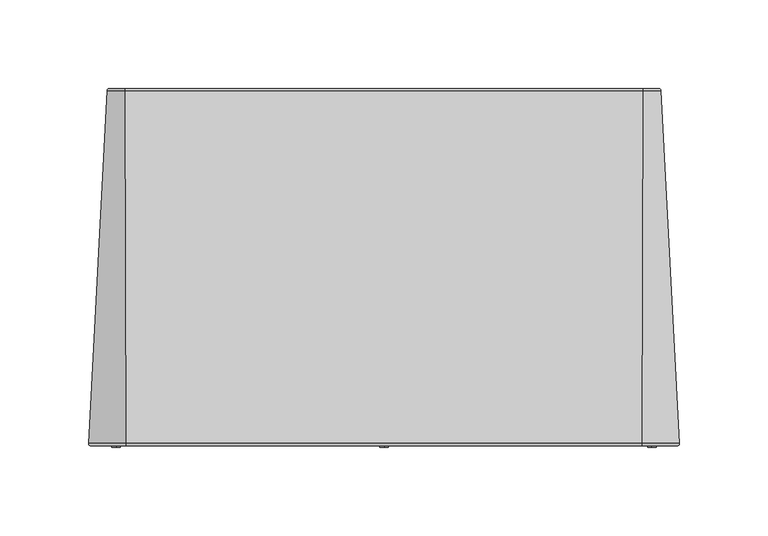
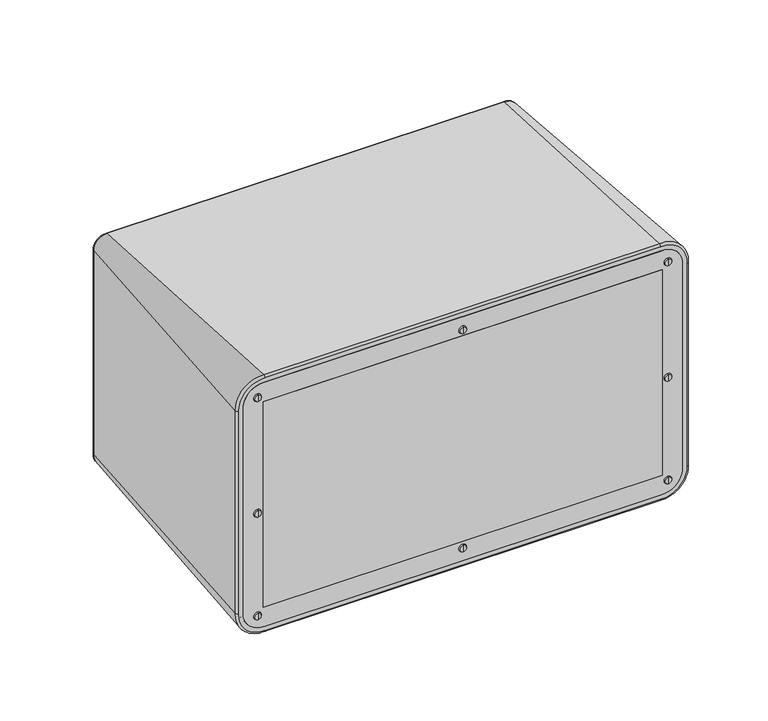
"""IFC4 building model written with IfcOpenShell, lengths in millimetres: proxy geometry, 230920 PS 8150T_B VA-(150W Leistung, Farbe schwarz) EN : PS 8150T/B VA (150W Leistung, Farbe schwarz)."""

from ifc_helpers import new_model, si_unit, point, frame, frame_2d, origin, place, context, project, spatial, polyline, circle_curve, ellipse_curve, trimmed, segment, composite_curve, outline, extrude, source, transform, mapped, element, save
from ifc_brep_helpers import plane_surface, revolved_surface, advanced_brep


def communication_devices_ccbabaca(model_context):
    return source(origin(), model_context, "Body", "SolidModel", [
        extrude(outline(composite_curve([segment(trimmed(circle_curve(frame_2d((176.0590026, -147.00169)), 4.3326509), [point((180.3853125, -146.7673691))], [point((175.8208415, -151.3277902))], False, "CARTESIAN"), True, "CONTINUOUS"), segment(trimmed(circle_curve(frame_2d((96.0, -1601.2409641)), 1452.1086662), [point((175.8208415, -151.3277902))], [point((16.1791585, -151.3277902))], True, "CARTESIAN"), True, "CONTINUOUS"), segment(trimmed(circle_curve(frame_2d((15.9409974, -147.00169)), 4.3326509), [point((16.1791585, -151.3277902))], [point((11.6146875, -146.7673691))], False, "CARTESIAN"), True, "CONTINUOUS"), segment(trimmed(circle_curve(frame_2d((-2698.1787776, 0.0)), 2713.765149), [point((11.6146875, -146.7673691))], [point((11.6146875, 146.7673691))], True, "CARTESIAN"), True, "CONTINUOUS"), segment(trimmed(circle_curve(frame_2d((15.9409974, 147.00169)), 4.3326509), [point((11.6146875, 146.7673691))], [point((16.1791585, 151.3277902))], False, "CARTESIAN"), True, "CONTINUOUS"), segment(trimmed(circle_curve(frame_2d((96.0, 1601.2409641)), 1452.1086662), [point((16.1791585, 151.3277902))], [point((175.8208415, 151.3277902))], True, "CARTESIAN"), True, "CONTINUOUS"), segment(trimmed(circle_curve(frame_2d((176.0590026, 147.00169)), 4.3326509), [point((175.8208415, 151.3277902))], [point((180.3853125, 146.7673691))], False, "CARTESIAN"), True, "CONTINUOUS"), segment(trimmed(circle_curve(frame_2d((2890.1787776, 0.0)), 2713.765149), [point((180.3853125, 146.7673691))], [point((180.3853125, -146.7673691))], True, "CARTESIAN"), True, "CONTINUOUS")], self_intersect=False)), frame((0.0, 94.2931712, 0.0), z_axis=(0.0, 1.0, 0.0), x_axis=(0.0, 0.0, 1.0)), (0.0, 0.0, 1.0), 6.7068288),
        advanced_brep(
        [(151.25, -100.749163, 90.7502974), (151.25, -100.749163, 93.6213488), (151.25, -100.749163, 87.8792459), (151.25, -101.6730619, 88.3667748), (151.25, -101.6730619, 93.13382), (151.25, -101.6730619, 90.7502974)],
        [
            (0, 1),
            (1, 2, circle_curve(frame((151.25, -100.749163, 90.7502974), z_axis=(0.0, 1.0, 0.0), x_axis=(0.0, 0.0, 1.0)), 2.8710515)),
            (2, 0),
            (2, 1, circle_curve(frame((151.25, -100.749163, 90.7502974), z_axis=(0.0, 1.0, 0.0), x_axis=(0.0, 0.0, 1.0)), 2.8710515)),
            (3, 4, circle_curve(frame((151.25, -101.6730619, 90.7502974), z_axis=(0.0, -1.0, 0.0), x_axis=(0.0, 0.0, 1.0)), 2.3835226)),
            (4, 5),
            (5, 3),
            (4, 3, circle_curve(frame((151.25, -101.6730619, 90.7502974), z_axis=(0.0, -1.0, 0.0), x_axis=(0.0, 0.0, 1.0)), 2.3835226)),
            (1, 4),
            (3, 2),
        ],
        [
            plane_surface(frame((151.25, -100.749163, 90.7502974), z_axis=(0.0, 1.0, 0.0), x_axis=(0.0, 0.0, 1.0))),
            plane_surface(frame((151.25, -101.6730619, 90.7502974), z_axis=(0.0, -1.0, 0.0), x_axis=(0.0, 0.0, 1.0))),
            revolved_surface(polyline([(151.25, -101.6730619, 93.13382), (151.25, -100.749163, 93.6213488)]), (151.25, -100.9174875, 90.7502974), (0.0, 1.0, 0.0)),
        ],
        [
            (0, [[1, 2, 3]]),
            (0, [[-3, 4, -1]]),
            (1, [[5, 6, 7]]),
            (1, [[8, -7, -6]]),
            (2, [[-2, 9, -5, 10]]),
            (2, [[-4, -10, -8, -9]]),
        ],
    ),
        advanced_brep(
        [(-151.25, -100.749163, 87.8792459), (-151.25, -100.749163, 93.6213488), (-151.25, -100.749163, 90.7502974), (-151.25, -101.6730619, 90.7502974), (-151.25, -101.6730619, 93.13382), (-151.25, -101.6730619, 88.3667748)],
        [
            (0, 1, circle_curve(frame((-151.25, -100.749163, 90.7502974), z_axis=(0.0, 1.0, 0.0), x_axis=(0.0, 0.0, 1.0)), 2.8710515)),
            (1, 2),
            (2, 0),
            (1, 0, circle_curve(frame((-151.25, -100.749163, 90.7502974), z_axis=(0.0, 1.0, 0.0), x_axis=(0.0, 0.0, 1.0)), 2.8710515)),
            (3, 4),
            (4, 5, circle_curve(frame((-151.25, -101.6730619, 90.7502974), z_axis=(0.0, -1.0, 0.0), x_axis=(0.0, 0.0, 1.0)), 2.3835226)),
            (5, 3),
            (5, 4, circle_curve(frame((-151.25, -101.6730619, 90.7502974), z_axis=(0.0, -1.0, 0.0), x_axis=(0.0, 0.0, 1.0)), 2.3835226)),
            (4, 1),
            (0, 5),
        ],
        [
            plane_surface(frame((-151.25, -100.749163, 90.7502974), z_axis=(0.0, 1.0, 0.0), x_axis=(0.0, 0.0, 1.0))),
            plane_surface(frame((-151.25, -101.6730619, 90.7502974), z_axis=(0.0, -1.0, 0.0), x_axis=(0.0, 0.0, 1.0))),
            revolved_surface(polyline([(-151.25, -100.749163, 93.6213488), (-151.25, -101.6730619, 93.13382)]), (-151.25, -100.9174875, 90.7502974), (0.0, -1.0, 0.0)),
        ],
        [
            (0, [[1, 2, 3]]),
            (0, [[4, -3, -2]]),
            (1, [[5, 6, 7]]),
            (1, [[-7, 8, -5]]),
            (2, [[-6, 9, -1, 10]]),
            (2, [[-8, -10, -4, -9]]),
        ],
    ),
        advanced_brep(
        [(151.25, -100.749163, 10.7502974), (151.25, -100.749163, 13.6213488), (151.25, -100.749163, 7.8792459), (151.25, -101.6730619, 8.3667748), (151.25, -101.6730619, 13.13382), (151.25, -101.6730619, 10.7502974)],
        [
            (0, 1),
            (1, 2, circle_curve(frame((151.25, -100.749163, 10.7502974), z_axis=(0.0, 1.0, 0.0), x_axis=(0.0, 0.0, 1.0)), 2.8710515)),
            (2, 0),
            (2, 1, circle_curve(frame((151.25, -100.749163, 10.7502974), z_axis=(0.0, 1.0, 0.0), x_axis=(0.0, 0.0, 1.0)), 2.8710515)),
            (3, 4, circle_curve(frame((151.25, -101.6730619, 10.7502974), z_axis=(0.0, -1.0, 0.0), x_axis=(0.0, 0.0, 1.0)), 2.3835226)),
            (4, 5),
            (5, 3),
            (4, 3, circle_curve(frame((151.25, -101.6730619, 10.7502974), z_axis=(0.0, -1.0, 0.0), x_axis=(0.0, 0.0, 1.0)), 2.3835226)),
            (1, 4),
            (3, 2),
        ],
        [
            plane_surface(frame((151.25, -100.749163, 10.7502974), z_axis=(0.0, 1.0, 0.0), x_axis=(0.0, 0.0, 1.0))),
            plane_surface(frame((151.25, -101.6730619, 10.7502974), z_axis=(0.0, -1.0, 0.0), x_axis=(0.0, 0.0, 1.0))),
            revolved_surface(polyline([(151.25, -101.6730619, 13.13382), (151.25, -100.749163, 13.6213488)]), (151.25, -100.9174875, 10.7502974), (0.0, 1.0, 0.0)),
        ],
        [
            (0, [[1, 2, 3]]),
            (0, [[-3, 4, -1]]),
            (1, [[5, 6, 7]]),
            (1, [[8, -7, -6]]),
            (2, [[-2, 9, -5, 10]]),
            (2, [[-4, -10, -8, -9]]),
        ],
    ),
        advanced_brep(
        [(-151.25, -100.749163, 7.8792459), (-151.25, -100.749163, 13.6213488), (-151.25, -100.749163, 10.7502974), (-151.25, -101.6730619, 10.7502974), (-151.25, -101.6730619, 13.13382), (-151.25, -101.6730619, 8.3667748)],
        [
            (0, 1, circle_curve(frame((-151.25, -100.749163, 10.7502974), z_axis=(0.0, 1.0, 0.0), x_axis=(0.0, 0.0, 1.0)), 2.8710515)),
            (1, 2),
            (2, 0),
            (1, 0, circle_curve(frame((-151.25, -100.749163, 10.7502974), z_axis=(0.0, 1.0, 0.0), x_axis=(0.0, 0.0, 1.0)), 2.8710515)),
            (3, 4),
            (4, 5, circle_curve(frame((-151.25, -101.6730619, 10.7502974), z_axis=(0.0, -1.0, 0.0), x_axis=(0.0, 0.0, 1.0)), 2.3835226)),
            (5, 3),
            (5, 4, circle_curve(frame((-151.25, -101.6730619, 10.7502974), z_axis=(0.0, -1.0, 0.0), x_axis=(0.0, 0.0, 1.0)), 2.3835226)),
            (4, 1),
            (0, 5),
        ],
        [
            plane_surface(frame((-151.25, -100.749163, 10.7502974), z_axis=(0.0, 1.0, 0.0), x_axis=(0.0, 0.0, 1.0))),
            plane_surface(frame((-151.25, -101.6730619, 10.7502974), z_axis=(0.0, -1.0, 0.0), x_axis=(0.0, 0.0, 1.0))),
            revolved_surface(polyline([(-151.25, -100.749163, 13.6213488), (-151.25, -101.6730619, 13.13382)]), (-151.25, -100.9174875, 10.7502974), (0.0, -1.0, 0.0)),
        ],
        [
            (0, [[1, 2, 3]]),
            (0, [[4, -3, -2]]),
            (1, [[5, 6, 7]]),
            (1, [[-7, 8, -5]]),
            (2, [[-6, 9, -1, 10]]),
            (2, [[-8, -10, -4, -9]]),
        ],
    ),
        advanced_brep(
        [(0.0, -100.749163, 7.8792459), (0.0, -100.749163, 13.6213488), (0.0, -100.749163, 10.7502974), (0.0, -101.6730619, 10.7502974), (0.0, -101.6730619, 13.13382), (0.0, -101.6730619, 8.3667748)],
        [
            (0, 1, circle_curve(frame((0.0, -100.749163, 10.7502974), z_axis=(0.0, 1.0, 0.0), x_axis=(0.0, 0.0, 1.0)), 2.8710515)),
            (1, 2),
            (2, 0),
            (1, 0, circle_curve(frame((0.0, -100.749163, 10.7502974), z_axis=(0.0, 1.0, 0.0), x_axis=(0.0, 0.0, 1.0)), 2.8710515)),
            (3, 4),
            (4, 5, circle_curve(frame((0.0, -101.6730619, 10.7502974), z_axis=(0.0, -1.0, 0.0), x_axis=(0.0, 0.0, 1.0)), 2.3835226)),
            (5, 3),
            (5, 4, circle_curve(frame((0.0, -101.6730619, 10.7502974), z_axis=(0.0, -1.0, 0.0), x_axis=(0.0, 0.0, 1.0)), 2.3835226)),
            (4, 1),
            (0, 5),
        ],
        [
            plane_surface(frame((0.0, -100.749163, 10.7502974), z_axis=(0.0, 1.0, 0.0), x_axis=(0.0, 0.0, 1.0))),
            plane_surface(frame((0.0, -101.6730619, 10.7502974), z_axis=(0.0, -1.0, 0.0), x_axis=(0.0, 0.0, 1.0))),
            revolved_surface(polyline([(0.0, -100.749163, 13.6213488), (0.0, -101.6730619, 13.13382)]), (0.0, -100.9174875, 10.7502974), (0.0, -1.0, 0.0)),
        ],
        [
            (0, [[1, 2, 3]]),
            (0, [[4, -3, -2]]),
            (1, [[5, 6, 7]]),
            (1, [[-7, 8, -5]]),
            (2, [[-6, 9, -1, 10]]),
            (2, [[-8, -10, -4, -9]]),
        ],
    ),
        advanced_brep(
        [(151.25, -100.749163, 180.7502974), (151.25, -100.749163, 183.6213488), (151.25, -100.749163, 177.8792459), (151.25, -101.6730619, 178.3667748), (151.25, -101.6730619, 183.13382), (151.25, -101.6730619, 180.7502974)],
        [
            (0, 1),
            (1, 2, circle_curve(frame((151.25, -100.749163, 180.7502974), z_axis=(0.0, 1.0, 0.0), x_axis=(0.0, 0.0, 1.0)), 2.8710515)),
            (2, 0),
            (2, 1, circle_curve(frame((151.25, -100.749163, 180.7502974), z_axis=(0.0, 1.0, 0.0), x_axis=(0.0, 0.0, 1.0)), 2.8710515)),
            (3, 4, circle_curve(frame((151.25, -101.6730619, 180.7502974), z_axis=(0.0, -1.0, 0.0), x_axis=(0.0, 0.0, 1.0)), 2.3835226)),
            (4, 5),
            (5, 3),
            (4, 3, circle_curve(frame((151.25, -101.6730619, 180.7502974), z_axis=(0.0, -1.0, 0.0), x_axis=(0.0, 0.0, 1.0)), 2.3835226)),
            (1, 4),
            (3, 2),
        ],
        [
            plane_surface(frame((151.25, -100.749163, 180.7502974), z_axis=(0.0, 1.0, 0.0), x_axis=(0.0, 0.0, 1.0))),
            plane_surface(frame((151.25, -101.6730619, 180.7502974), z_axis=(0.0, -1.0, 0.0), x_axis=(0.0, 0.0, 1.0))),
            revolved_surface(polyline([(151.25, -101.6730619, 183.13382), (151.25, -100.749163, 183.6213488)]), (151.25, -100.9174875, 180.7502974), (0.0, 1.0, 0.0)),
        ],
        [
            (0, [[1, 2, 3]]),
            (0, [[-3, 4, -1]]),
            (1, [[5, 6, 7]]),
            (1, [[8, -7, -6]]),
            (2, [[-2, 9, -5, 10]]),
            (2, [[-4, -10, -8, -9]]),
        ],
    ),
        advanced_brep(
        [(-151.25, -100.749163, 177.8792459), (-151.25, -100.749163, 183.6213488), (-151.25, -100.749163, 180.7502974), (-151.25, -101.6730619, 180.7502974), (-151.25, -101.6730619, 183.13382), (-151.25, -101.6730619, 178.3667748)],
        [
            (0, 1, circle_curve(frame((-151.25, -100.749163, 180.7502974), z_axis=(0.0, 1.0, 0.0), x_axis=(0.0, 0.0, 1.0)), 2.8710515)),
            (1, 2),
            (2, 0),
            (1, 0, circle_curve(frame((-151.25, -100.749163, 180.7502974), z_axis=(0.0, 1.0, 0.0), x_axis=(0.0, 0.0, 1.0)), 2.8710515)),
            (3, 4),
            (4, 5, circle_curve(frame((-151.25, -101.6730619, 180.7502974), z_axis=(0.0, -1.0, 0.0), x_axis=(0.0, 0.0, 1.0)), 2.3835226)),
            (5, 3),
            (5, 4, circle_curve(frame((-151.25, -101.6730619, 180.7502974), z_axis=(0.0, -1.0, 0.0), x_axis=(0.0, 0.0, 1.0)), 2.3835226)),
            (4, 1),
            (0, 5),
        ],
        [
            plane_surface(frame((-151.25, -100.749163, 180.7502974), z_axis=(0.0, 1.0, 0.0), x_axis=(0.0, 0.0, 1.0))),
            plane_surface(frame((-151.25, -101.6730619, 180.7502974), z_axis=(0.0, -1.0, 0.0), x_axis=(0.0, 0.0, 1.0))),
            revolved_surface(polyline([(-151.25, -100.749163, 183.6213488), (-151.25, -101.6730619, 183.13382)]), (-151.25, -100.9174875, 180.7502974), (0.0, -1.0, 0.0)),
        ],
        [
            (0, [[1, 2, 3]]),
            (0, [[4, -3, -2]]),
            (1, [[5, 6, 7]]),
            (1, [[-7, 8, -5]]),
            (2, [[-6, 9, -1, 10]]),
            (2, [[-8, -10, -4, -9]]),
        ],
    ),
        advanced_brep(
        [(0.0, -100.749163, 177.8792459), (0.0, -100.749163, 183.6213488), (0.0, -100.749163, 180.7502974), (0.0, -101.6730619, 180.7502974), (0.0, -101.6730619, 183.13382), (0.0, -101.6730619, 178.3667748)],
        [
            (0, 1, circle_curve(frame((0.0, -100.749163, 180.7502974), z_axis=(0.0, 1.0, 0.0), x_axis=(0.0, 0.0, 1.0)), 2.8710515)),
            (1, 2),
            (2, 0),
            (1, 0, circle_curve(frame((0.0, -100.749163, 180.7502974), z_axis=(0.0, 1.0, 0.0), x_axis=(0.0, 0.0, 1.0)), 2.8710515)),
            (3, 4),
            (4, 5, circle_curve(frame((0.0, -101.6730619, 180.7502974), z_axis=(0.0, -1.0, 0.0), x_axis=(0.0, 0.0, 1.0)), 2.3835226)),
            (5, 3),
            (5, 4, circle_curve(frame((0.0, -101.6730619, 180.7502974), z_axis=(0.0, -1.0, 0.0), x_axis=(0.0, 0.0, 1.0)), 2.3835226)),
            (4, 1),
            (0, 5),
        ],
        [
            plane_surface(frame((0.0, -100.749163, 180.7502974), z_axis=(0.0, 1.0, 0.0), x_axis=(0.0, 0.0, 1.0))),
            plane_surface(frame((0.0, -101.6730619, 180.7502974), z_axis=(0.0, -1.0, 0.0), x_axis=(0.0, 0.0, 1.0))),
            revolved_surface(polyline([(0.0, -100.749163, 183.6213488), (0.0, -101.6730619, 183.13382)]), (0.0, -100.9174875, 180.7502974), (0.0, -1.0, 0.0)),
        ],
        [
            (0, [[1, 2, 3]]),
            (0, [[4, -3, -2]]),
            (1, [[5, 6, 7]]),
            (1, [[-7, 8, -5]]),
            (2, [[-6, 9, -1, 10]]),
            (2, [[-8, -10, -4, -9]]),
        ],
    ),
        extrude(outline(polyline([(147.00169, -101.0), (-147.00169, -101.0), (-147.00169, -95.8819491), (147.00169, -95.8819491), (147.00169, -101.0)])), frame((0.0, 0.0, 15.9409974), z_axis=(0.0, 0.0, 1.0), x_axis=(1.0, 0.0, 0.0)), (0.0, 0.0, 1.0), 160.1180052),
        extrude(outline(composite_curve([segment(trimmed(circle_curve(frame_2d((2890.1787776, 0.0)), 2703.1787776), [point((190.9561904, 146.194831))], [point((190.9561904, -146.194831))], True, "CARTESIAN"), True, "CONTINUOUS"), segment(trimmed(circle_curve(frame_2d((176.0590026, -147.00169)), 14.9190223), [point((190.9561904, -146.194831))], [point((175.2389201, -161.8981557))], False, "CARTESIAN"), True, "CONTINUOUS"), segment(trimmed(circle_curve(frame_2d((96.0, -1601.2409641)), 1441.5222948), [point((175.2389201, -161.8981557))], [point((16.7610799, -161.8981557))], True, "CARTESIAN"), True, "CONTINUOUS"), segment(trimmed(circle_curve(frame_2d((15.9409974, -147.00169)), 14.9190223), [point((16.7610799, -161.8981557))], [point((1.0438096, -146.194831))], False, "CARTESIAN"), True, "CONTINUOUS"), segment(trimmed(circle_curve(frame_2d((-2698.1787776, 0.0)), 2703.1787776), [point((1.0438096, -146.194831))], [point((1.0438096, 146.194831))], True, "CARTESIAN"), True, "CONTINUOUS"), segment(trimmed(circle_curve(frame_2d((15.9409974, 147.00169)), 14.9190223), [point((1.0438096, 146.194831))], [point((16.7610799, 161.8981557))], False, "CARTESIAN"), True, "CONTINUOUS"), segment(trimmed(circle_curve(frame_2d((96.0, 1601.2409641)), 1441.5222948), [point((16.7610799, 161.8981557))], [point((175.2389201, 161.8981557))], True, "CARTESIAN"), True, "CONTINUOUS"), segment(trimmed(circle_curve(frame_2d((176.0590026, 147.00169)), 14.9190223), [point((175.2389201, 161.8981557))], [point((190.9561904, 146.194831))], False, "CARTESIAN"), True, "CONTINUOUS")], self_intersect=False), holes=[polyline([(176.0590026, 147.00169), (15.9409974, 147.00169), (15.9409974, -147.00169), (176.0590026, -147.00169), (176.0590026, 147.00169)])]), frame((0.0, -101.0, 0.0), z_axis=(0.0, 1.0, 0.0), x_axis=(0.0, 0.0, 1.0)), (0.0, 0.0, 1.0), 5.1180509),
        advanced_brep(
        [(154.9936888, 101.0, 175.6190259), (146.5688077, 101.0, 184.0513888), (146.4931959, 99.6732703, 185.4474241), (156.3896563, 99.6732703, 175.5421748), (161.8981557, -101.0, 175.2389201), (146.194831, -101.0, 190.9561904), (146.7673691, 101.0, 180.3853125), (151.3277902, 101.0, 175.8208415), (166.8110472, -99.4798196, 174.9684548), (145.9287269, -99.4798196, 195.8693201), (146.0067463, -101.0, 194.428834), (165.370631, -101.0, 175.0477529), (154.9936888, 101.0, 16.3809741), (156.3896563, 99.6732703, 16.4578252), (161.8981557, -101.0, 16.7610799), (151.3277902, 101.0, 16.1791585), (166.8110472, -99.4798196, 17.0315452), (165.370631, -101.0, 16.9522471), (146.5688077, 101.0, 7.9486112), (146.4931959, 99.6732703, 6.5525759), (146.194831, -101.0, 1.0438096), (146.7673691, 101.0, 11.6146875), (145.9287269, -99.4798196, -3.8693201), (146.0067463, -101.0, -2.428834), (-146.5688077, 101.0, 7.9486112), (-146.4931959, 99.6732703, 6.5525759), (-146.194831, -101.0, 1.0438096), (-146.7673691, 101.0, 11.6146875), (-145.9287269, -99.4798196, -3.8693201), (-146.0067463, -101.0, -2.428834), (-154.9936888, 101.0, 16.3809741), (-156.3896563, 99.6732703, 16.4578252), (-161.8981557, -101.0, 16.7610799), (-151.3277902, 101.0, 16.1791585), (-166.8110472, -99.4798196, 17.0315452), (-165.370631, -101.0, 16.9522471), (-154.9936888, 101.0, 175.6190259), (-156.3896563, 99.6732703, 175.5421748), (-161.8981557, -101.0, 175.2389201), (-151.3277902, 101.0, 175.8208415), (-166.8110472, -99.4798196, 174.9684548), (-165.370631, -101.0, 175.0477529), (-146.5688077, 101.0, 184.0513888), (-146.4931959, 99.6732703, 185.4474241), (-146.194831, -101.0, 190.9561904), (-146.7673691, 101.0, 180.3853125), (-145.9287269, -99.4798196, 195.8693201), (-146.0067463, -101.0, 194.428834)],
        [
            (0, 1, circle_curve(frame((147.00169, 101.0, 176.0590026), z_axis=(0.0, -1.0, 0.0), x_axis=(-0.054082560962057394, 0.0, 0.9985364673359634)), 8.0041005)),
            (1, 2, circle_curve(frame((146.5688077, 99.6, 184.0513888), z_axis=(0.9985364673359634, 0.0, 0.0540825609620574), x_axis=(-0.0540825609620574, 0.0, 0.9985364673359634)), 1.4)),
            (2, 3, circle_curve(frame((147.00169, 99.6732703, 176.0590026), z_axis=(0.0, 1.0, 0.0), x_axis=(-0.054082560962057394, 0.0, 0.9985364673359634)), 9.4021819)),
            (3, 0, circle_curve(frame((154.9936888, 99.6, 175.6190259), z_axis=(0.054968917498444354, 0.0, 0.998488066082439), x_axis=(0.998488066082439, 0.0, -0.054968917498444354)), 1.4)),
            (4, 5, circle_curve(frame((147.00169, -101.0, 176.0590026), z_axis=(0.0, -1.0, 0.0), x_axis=(-0.054082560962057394, 0.0, 0.9985364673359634)), 14.9190223)),
            (5, 6),
            (6, 7, circle_curve(frame((147.00169, 101.0, 176.0590026), z_axis=(0.0, 1.0, 0.0), x_axis=(-0.054082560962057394, 0.0, 0.9985364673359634)), 4.3326509)),
            (7, 4),
            (8, 9, circle_curve(frame((147.00169, -99.4798196, 176.0590026), z_axis=(0.0, -1.0, 0.0), x_axis=(-0.054082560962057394, 0.0, 0.9985364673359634)), 19.839353)),
            (9, 10, circle_curve(frame((146.0067463, -99.5554229, 194.428834), z_axis=(0.9985364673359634, 0.0, 0.0540825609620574), x_axis=(-0.0540825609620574, 0.0, 0.9985364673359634)), 1.4445771)),
            (10, 11, circle_curve(frame((147.00169, -101.0, 176.0590026), z_axis=(0.0, 1.0, 0.0), x_axis=(-0.054082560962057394, 0.0, 0.9985364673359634)), 18.3967557)),
            (11, 8, circle_curve(frame((165.370631, -99.5554229, 175.0477529), z_axis=(0.054968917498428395, 0.0, 0.9984880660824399), x_axis=(0.9984880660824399, 0.0, -0.054968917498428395)), 1.4445771)),
            (2, 9),
            (8, 3),
            (12, 0, circle_curve(frame((1601.2409641, 101.0, 96.0), z_axis=(0.0, 1.0, 0.0), x_axis=(-0.998488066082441, 0.0, 0.0549689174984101)), 1448.4372166)),
            (3, 13, circle_curve(frame((1601.2409641, 99.6732703, 96.0), z_axis=(0.0, -1.0, 0.0), x_axis=(-0.998488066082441, 0.0, 0.0549689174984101)), 1447.0391353)),
            (13, 12, circle_curve(frame((154.9936888, 99.6, 16.3809741), z_axis=(-0.05496891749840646, 0.0, 0.9984880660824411), x_axis=(0.9984880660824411, 0.0, 0.05496891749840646)), 1.4)),
            (14, 4, circle_curve(frame((1601.2409641, -101.0, 96.0), z_axis=(0.0, 1.0, 0.0), x_axis=(-0.998488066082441, 0.0, 0.0549689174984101)), 1441.5222948)),
            (7, 15, circle_curve(frame((1601.2409641, 101.0, 96.0), z_axis=(0.0, -1.0, 0.0), x_axis=(-0.998488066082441, 0.0, 0.0549689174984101)), 1452.1086662)),
            (15, 14),
            (16, 8, circle_curve(frame((1601.2409641, -99.4798196, 96.0), z_axis=(0.0, 1.0, 0.0), x_axis=(-0.998488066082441, 0.0, 0.0549689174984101)), 1436.6019641)),
            (11, 17, circle_curve(frame((1601.2409641, -101.0, 96.0), z_axis=(0.0, -1.0, 0.0), x_axis=(-0.998488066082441, 0.0, 0.0549689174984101)), 1438.0445615)),
            (17, 16, circle_curve(frame((165.370631, -99.5554229, 16.9522471), z_axis=(-0.05496891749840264, 0.0, 0.9984880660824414), x_axis=(0.9984880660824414, 0.0, 0.05496891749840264)), 1.4445771)),
            (16, 13),
            (18, 12, circle_curve(frame((147.00169, 101.0, 15.9409974), z_axis=(0.0, -1.0, 0.0), x_axis=(0.9984880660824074, 0.0, 0.05496891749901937)), 8.0041005)),
            (13, 19, circle_curve(frame((147.00169, 99.6732703, 15.9409974), z_axis=(0.0, 1.0, 0.0), x_axis=(0.9984880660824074, 0.0, 0.05496891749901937)), 9.4021819)),
            (19, 18, circle_curve(frame((146.5688077, 99.6, 7.9486112), z_axis=(0.9985364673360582, 0.0, -0.05408256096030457), x_axis=(-0.05408256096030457, 0.0, -0.9985364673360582)), 1.4)),
            (20, 14, circle_curve(frame((147.00169, -101.0, 15.9409974), z_axis=(0.0, -1.0, 0.0), x_axis=(0.9984880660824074, 0.0, 0.05496891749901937)), 14.9190223)),
            (15, 21, circle_curve(frame((147.00169, 101.0, 15.9409974), z_axis=(0.0, 1.0, 0.0), x_axis=(0.9984880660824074, 0.0, 0.05496891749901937)), 4.3326509)),
            (21, 20),
            (22, 16, circle_curve(frame((147.00169, -99.4798196, 15.9409974), z_axis=(0.0, -1.0, 0.0), x_axis=(0.9984880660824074, 0.0, 0.05496891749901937)), 19.839353)),
            (17, 23, circle_curve(frame((147.00169, -101.0, 15.9409974), z_axis=(0.0, 1.0, 0.0), x_axis=(0.9984880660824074, 0.0, 0.05496891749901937)), 18.3967557)),
            (23, 22, circle_curve(frame((146.0067463, -99.5554229, -2.428834), z_axis=(0.9985364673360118, 0.0, -0.054082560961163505), x_axis=(-0.054082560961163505, 0.0, -0.9985364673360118)), 1.4445771)),
            (22, 19),
            (24, 18, circle_curve(frame((0.0, 101.0, -2698.1787776), z_axis=(0.0, 1.0, 0.0), x_axis=(0.054082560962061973, 0.0, 0.998536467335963)), 2710.0936994)),
            (19, 25, circle_curve(frame((0.0, 99.6732703, -2698.1787776), z_axis=(0.0, -1.0, 0.0), x_axis=(0.054082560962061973, 0.0, 0.998536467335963)), 2708.6956181)),
            (25, 24, circle_curve(frame((-146.5688077, 99.6, 7.9486112), z_axis=(0.998536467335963, 0.0, 0.0540825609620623), x_axis=(0.0540825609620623, 0.0, -0.998536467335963)), 1.4)),
            (26, 20, circle_curve(frame((0.0, -101.0, -2698.1787776), z_axis=(0.0, 1.0, 0.0), x_axis=(0.054082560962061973, 0.0, 0.998536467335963)), 2703.1787776)),
            (21, 27, circle_curve(frame((0.0, 101.0, -2698.1787776), z_axis=(0.0, -1.0, 0.0), x_axis=(0.054082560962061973, 0.0, 0.998536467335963)), 2713.765149)),
            (27, 26),
            (28, 22, circle_curve(frame((0.0, -99.4798196, -2698.1787776), z_axis=(0.0, 1.0, 0.0), x_axis=(0.054082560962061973, 0.0, 0.998536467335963)), 2698.2584469)),
            (23, 29, circle_curve(frame((0.0, -101.0, -2698.1787776), z_axis=(0.0, -1.0, 0.0), x_axis=(0.054082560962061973, 0.0, 0.998536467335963)), 2699.7010443)),
            (29, 28, circle_curve(frame((-146.0067463, -99.5554229, -2.428834), z_axis=(0.998536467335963, 0.0, 0.05408256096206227), x_axis=(0.05408256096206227, 0.0, -0.998536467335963)), 1.4445771)),
            (28, 25),
            (30, 24, circle_curve(frame((-147.00169, 101.0, 15.9409974), z_axis=(0.0, -1.0, 0.0), x_axis=(0.05408256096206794, 0.0, -0.9985364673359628)), 8.0041005)),
            (25, 31, circle_curve(frame((-147.00169, 99.6732703, 15.9409974), z_axis=(0.0, 1.0, 0.0), x_axis=(0.05408256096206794, 0.0, -0.9985364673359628)), 9.4021819)),
            (31, 30, circle_curve(frame((-154.9936888, 99.6, 16.3809741), z_axis=(-0.05496891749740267, 0.0, -0.9984880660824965), x_axis=(-0.9984880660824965, 0.0, 0.05496891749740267)), 1.4)),
            (32, 26, circle_curve(frame((-147.00169, -101.0, 15.9409974), z_axis=(0.0, -1.0, 0.0), x_axis=(0.05408256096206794, 0.0, -0.9985364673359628)), 14.9190223)),
            (27, 33, circle_curve(frame((-147.00169, 101.0, 15.9409974), z_axis=(0.0, 1.0, 0.0), x_axis=(0.05408256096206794, 0.0, -0.9985364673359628)), 4.3326509)),
            (33, 32),
            (34, 28, circle_curve(frame((-147.00169, -99.4798196, 15.9409974), z_axis=(0.0, -1.0, 0.0), x_axis=(0.05408256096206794, 0.0, -0.9985364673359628)), 19.839353)),
            (29, 35, circle_curve(frame((-147.00169, -101.0, 15.9409974), z_axis=(0.0, 1.0, 0.0), x_axis=(0.05408256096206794, 0.0, -0.9985364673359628)), 18.3967557)),
            (35, 34, circle_curve(frame((-165.370631, -99.5554229, 16.9522471), z_axis=(-0.054968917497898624, 0.0, -0.9984880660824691), x_axis=(-0.9984880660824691, 0.0, 0.054968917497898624)), 1.4445771)),
            (34, 31),
            (36, 30, circle_curve(frame((-1601.2409641, 101.0, 96.0), z_axis=(0.0, 1.0, 0.0), x_axis=(0.9984880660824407, 0.0, -0.05496891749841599)), 1448.4372166)),
            (31, 37, circle_curve(frame((-1601.2409641, 99.6732703, 96.0), z_axis=(0.0, -1.0, 0.0), x_axis=(0.9984880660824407, 0.0, -0.05496891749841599)), 1447.0391353)),
            (37, 36, circle_curve(frame((-154.9936888, 99.6, 175.6190259), z_axis=(0.05496891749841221, 0.0, -0.9984880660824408), x_axis=(-0.9984880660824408, 0.0, -0.05496891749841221)), 1.4)),
            (38, 32, circle_curve(frame((-1601.2409641, -101.0, 96.0), z_axis=(0.0, 1.0, 0.0), x_axis=(0.9984880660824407, 0.0, -0.05496891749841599)), 1441.5222948)),
            (33, 39, circle_curve(frame((-1601.2409641, 101.0, 96.0), z_axis=(0.0, -1.0, 0.0), x_axis=(0.9984880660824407, 0.0, -0.05496891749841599)), 1452.1086662)),
            (39, 38),
            (40, 34, circle_curve(frame((-1601.2409641, -99.4798196, 96.0), z_axis=(0.0, 1.0, 0.0), x_axis=(0.9984880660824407, 0.0, -0.05496891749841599)), 1436.6019641)),
            (35, 41, circle_curve(frame((-1601.2409641, -101.0, 96.0), z_axis=(0.0, -1.0, 0.0), x_axis=(0.9984880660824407, 0.0, -0.05496891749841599)), 1438.0445615)),
            (41, 40, circle_curve(frame((-165.370631, -99.5554229, 175.0477529), z_axis=(0.05496891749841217, 0.0, -0.9984880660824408), x_axis=(-0.9984880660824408, 0.0, -0.05496891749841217)), 1.4445771)),
            (40, 37),
            (42, 36, circle_curve(frame((-147.00169, 101.0, 176.0590026), z_axis=(0.0, -1.0, 0.0), x_axis=(-0.9984880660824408, 0.0, -0.05496891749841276)), 8.0041005)),
            (37, 43, circle_curve(frame((-147.00169, 99.6732703, 176.0590026), z_axis=(0.0, 1.0, 0.0), x_axis=(-0.9984880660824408, 0.0, -0.05496891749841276)), 9.4021819)),
            (43, 42, circle_curve(frame((-146.5688077, 99.6, 184.0513888), z_axis=(-0.9985364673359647, 0.0, 0.054082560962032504), x_axis=(0.054082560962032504, 0.0, 0.9985364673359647)), 1.4)),
            (44, 38, circle_curve(frame((-147.00169, -101.0, 176.0590026), z_axis=(0.0, -1.0, 0.0), x_axis=(-0.9984880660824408, 0.0, -0.05496891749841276)), 14.9190223)),
            (39, 45, circle_curve(frame((-147.00169, 101.0, 176.0590026), z_axis=(0.0, 1.0, 0.0), x_axis=(-0.9984880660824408, 0.0, -0.05496891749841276)), 4.3326509)),
            (45, 44),
            (46, 40, circle_curve(frame((-147.00169, -99.4798196, 176.0590026), z_axis=(0.0, -1.0, 0.0), x_axis=(-0.9984880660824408, 0.0, -0.05496891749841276)), 19.839353)),
            (41, 47, circle_curve(frame((-147.00169, -101.0, 176.0590026), z_axis=(0.0, 1.0, 0.0), x_axis=(-0.9984880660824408, 0.0, -0.05496891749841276)), 18.3967557)),
            (47, 46, circle_curve(frame((-146.0067463, -99.5554229, 194.428834), z_axis=(-0.9985364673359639, 0.0, 0.054082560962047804), x_axis=(0.054082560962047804, 0.0, 0.9985364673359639)), 1.4445771)),
            (46, 43),
            (1, 42, circle_curve(frame((0.0, 101.0, 2890.1787776), z_axis=(0.0, 1.0, 0.0), x_axis=(-0.054082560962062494, 0.0, -0.998536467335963)), 2710.0936994)),
            (43, 2, circle_curve(frame((0.0, 99.6732703, 2890.1787776), z_axis=(0.0, -1.0, 0.0), x_axis=(-0.054082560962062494, 0.0, -0.998536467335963)), 2708.6956181)),
            (6, 45, circle_curve(frame((0.0, 101.0, 2890.1787776), z_axis=(0.0, 1.0, 0.0), x_axis=(-0.054082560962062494, 0.0, -0.998536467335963)), 2713.765149)),
            (5, 44, circle_curve(frame((0.0, -101.0, 2890.1787776), z_axis=(0.0, 1.0, 0.0), x_axis=(-0.054082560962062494, 0.0, -0.998536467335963)), 2703.1787776)),
            (10, 47, circle_curve(frame((0.0, -101.0, 2890.1787776), z_axis=(0.0, 1.0, 0.0), x_axis=(-0.054082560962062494, 0.0, -0.998536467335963)), 2699.7010443)),
            (9, 46, circle_curve(frame((0.0, -99.4798196, 2890.1787776), z_axis=(0.0, 1.0, 0.0), x_axis=(-0.054082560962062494, 0.0, -0.998536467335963)), 2698.2584469)),
        ],
        [
            revolved_surface(trimmed(ellipse_curve(frame((146.5688077, 99.6, 184.0513888), z_axis=(-0.9985364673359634, 0.0, -0.0540825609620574), x_axis=(-0.0540825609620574, 0.0, 0.9985364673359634)), 1.4, 1.4), [point((146.4931959, 99.6732703, 185.4474241))], [point((146.5688077, 101.0, 184.0513888))], True, "CARTESIAN"), (147.00169, 0.0, 176.0590026), (0.0, 1.0, 0.0)),
            revolved_surface(polyline([(146.7673691, 101.0, 180.3853125), (146.194831, -101.0, 190.9561904)]), (147.00169, 0.0, 176.0590026), (0.0, 1.0, 0.0)),
            revolved_surface(trimmed(ellipse_curve(frame((146.0067463, -99.5554229, 194.428834), z_axis=(-0.9985364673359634, 0.0, -0.0540825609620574), x_axis=(-0.0540825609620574, 0.0, 0.9985364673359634)), 1.4445771, 1.4445771), [point((146.0067463, -101.0, 194.428834))], [point((145.9287269, -99.4798196, 195.8693201))], True, "CARTESIAN"), (147.00169, 0.0, 176.0590026), (0.0, 1.0, 0.0)),
            revolved_surface(polyline([(145.9287269, -99.4798196, 195.8693201), (146.4931959, 99.6732703, 185.4474241)]), (147.00169, 0.0, 176.0590026), (0.0, 1.0, 0.0)),
            revolved_surface(trimmed(ellipse_curve(frame((154.9936888, 99.6, 175.6190259), z_axis=(0.054968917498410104, 0.0, 0.998488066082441), x_axis=(0.998488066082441, 0.0, -0.054968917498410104)), 1.4, 1.4), [point((156.3896563, 99.6732703, 175.5421748))], [point((154.9936888, 101.0, 175.6190259))], True, "CARTESIAN"), (1601.2409641, 0.0, 96.0), (0.0, -1.0, 0.0)),
            revolved_surface(polyline([(151.3277902, 101.0, 175.8208415), (161.8981557, -101.0, 175.2389201)]), (1601.2409641, 0.0, 96.0), (0.0, -1.0, 0.0)),
            revolved_surface(trimmed(ellipse_curve(frame((165.370631, -99.5554229, 175.0477529), z_axis=(0.054968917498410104, 0.0, 0.998488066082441), x_axis=(0.998488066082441, 0.0, -0.054968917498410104)), 1.4445771, 1.4445771), [point((165.370631, -101.0, 175.0477529))], [point((166.8110472, -99.4798196, 174.9684548))], True, "CARTESIAN"), (1601.2409641, 0.0, 96.0), (0.0, -1.0, 0.0)),
            revolved_surface(polyline([(166.8110472, -99.4798196, 174.9684548), (156.3896563, 99.6732703, 175.5421748)]), (1601.2409641, 0.0, 96.0), (0.0, -1.0, 0.0)),
            revolved_surface(trimmed(ellipse_curve(frame((154.9936888, 99.6, 16.3809741), z_axis=(-0.05496891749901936, 0.0, 0.9984880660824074), x_axis=(0.9984880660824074, 0.0, 0.05496891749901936)), 1.4, 1.4), [point((156.3896563, 99.6732703, 16.4578252))], [point((154.9936888, 101.0, 16.3809741))], True, "CARTESIAN"), (147.00169, 0.0, 15.9409974), (0.0, 1.0, 0.0)),
            revolved_surface(polyline([(151.3277902, 101.0, 16.1791585), (161.8981557, -101.0, 16.7610799)]), (147.00169, 0.0, 15.9409974), (0.0, 1.0, 0.0)),
            revolved_surface(trimmed(ellipse_curve(frame((165.370631, -99.5554229, 16.9522471), z_axis=(-0.05496891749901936, 0.0, 0.9984880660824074), x_axis=(0.9984880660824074, 0.0, 0.05496891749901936)), 1.4445771, 1.4445771), [point((165.370631, -101.0, 16.9522471))], [point((166.8110472, -99.4798196, 17.0315452))], True, "CARTESIAN"), (147.00169, 0.0, 15.9409974), (0.0, 1.0, 0.0)),
            revolved_surface(polyline([(166.8110472, -99.4798196, 17.0315452), (156.3896563, 99.6732703, 16.4578252)]), (147.00169, 0.0, 15.9409974), (0.0, 1.0, 0.0)),
            revolved_surface(trimmed(ellipse_curve(frame((146.5688077, 99.6, 7.9486112), z_axis=(0.998536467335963, 0.0, -0.05408256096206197), x_axis=(-0.05408256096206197, 0.0, -0.998536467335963)), 1.4, 1.4), [point((146.4931959, 99.6732703, 6.5525759))], [point((146.5688077, 101.0, 7.9486112))], True, "CARTESIAN"), (0.0, 0.0, -2698.1787776), (0.0, -1.0, 0.0)),
            revolved_surface(polyline([(146.7673691, 101.0, 11.6146875), (146.194831, -101.0, 1.0438096)]), (0.0, 0.0, -2698.1787776), (0.0, -1.0, 0.0)),
            revolved_surface(trimmed(ellipse_curve(frame((146.0067463, -99.5554229, -2.428834), z_axis=(0.998536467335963, 0.0, -0.05408256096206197), x_axis=(-0.05408256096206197, 0.0, -0.998536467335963)), 1.4445771, 1.4445771), [point((146.0067463, -101.0, -2.428834))], [point((145.9287269, -99.4798196, -3.8693201))], True, "CARTESIAN"), (0.0, 0.0, -2698.1787776), (0.0, -1.0, 0.0)),
            revolved_surface(polyline([(145.9287269, -99.4798196, -3.8693201), (146.4931959, 99.6732703, 6.5525759)]), (0.0, 0.0, -2698.1787776), (0.0, -1.0, 0.0)),
            revolved_surface(trimmed(ellipse_curve(frame((-146.5688077, 99.6, 7.9486112), z_axis=(0.9985364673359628, 0.0, 0.05408256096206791), x_axis=(0.05408256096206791, 0.0, -0.9985364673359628)), 1.4, 1.4), [point((-146.4931959, 99.6732703, 6.5525759))], [point((-146.5688077, 101.0, 7.9486112))], True, "CARTESIAN"), (-147.00169, 0.0, 15.9409974), (0.0, 1.0, 0.0)),
            revolved_surface(polyline([(-146.7673691, 101.0, 11.6146875), (-146.194831, -101.0, 1.0438096)]), (-147.00169, 0.0, 15.9409974), (0.0, 1.0, 0.0)),
            revolved_surface(trimmed(ellipse_curve(frame((-146.0067463, -99.5554229, -2.428834), z_axis=(0.9985364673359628, 0.0, 0.05408256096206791), x_axis=(0.05408256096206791, 0.0, -0.9985364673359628)), 1.4445771, 1.4445771), [point((-146.0067463, -101.0, -2.428834))], [point((-145.9287269, -99.4798196, -3.8693201))], True, "CARTESIAN"), (-147.00169, 0.0, 15.9409974), (0.0, 1.0, 0.0)),
            revolved_surface(polyline([(-145.9287269, -99.4798196, -3.8693201), (-146.4931959, 99.6732703, 6.5525759)]), (-147.00169, 0.0, 15.9409974), (0.0, 1.0, 0.0)),
            revolved_surface(trimmed(ellipse_curve(frame((-154.9936888, 99.6, 16.3809741), z_axis=(-0.05496891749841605, 0.0, -0.9984880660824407), x_axis=(-0.9984880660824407, 0.0, 0.05496891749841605)), 1.4, 1.4), [point((-156.3896563, 99.6732703, 16.4578252))], [point((-154.9936888, 101.0, 16.3809741))], True, "CARTESIAN"), (-1601.2409641, 0.0, 96.0), (0.0, -1.0, 0.0)),
            revolved_surface(polyline([(-151.3277902, 101.0, 16.1791585), (-161.8981557, -101.0, 16.7610799)]), (-1601.2409641, 0.0, 96.0), (0.0, -1.0, 0.0)),
            revolved_surface(trimmed(ellipse_curve(frame((-165.370631, -99.5554229, 16.9522471), z_axis=(-0.05496891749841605, 0.0, -0.9984880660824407), x_axis=(-0.9984880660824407, 0.0, 0.05496891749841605)), 1.4445771, 1.4445771), [point((-165.370631, -101.0, 16.9522471))], [point((-166.8110472, -99.4798196, 17.0315452))], True, "CARTESIAN"), (-1601.2409641, 0.0, 96.0), (0.0, -1.0, 0.0)),
            revolved_surface(polyline([(-166.8110472, -99.4798196, 17.0315452), (-156.3896563, 99.6732703, 16.4578252)]), (-1601.2409641, 0.0, 96.0), (0.0, -1.0, 0.0)),
            revolved_surface(trimmed(ellipse_curve(frame((-154.9936888, 99.6, 175.6190259), z_axis=(0.05496891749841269, 0.0, -0.9984880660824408), x_axis=(-0.9984880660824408, 0.0, -0.05496891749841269)), 1.4, 1.4), [point((-156.3896563, 99.6732703, 175.5421748))], [point((-154.9936888, 101.0, 175.6190259))], True, "CARTESIAN"), (-147.00169, 0.0, 176.0590026), (0.0, 1.0, 0.0)),
            revolved_surface(polyline([(-151.3277902, 101.0, 175.8208415), (-161.8981557, -101.0, 175.2389201)]), (-147.00169, 0.0, 176.0590026), (0.0, 1.0, 0.0)),
            revolved_surface(trimmed(ellipse_curve(frame((-165.370631, -99.5554229, 175.0477529), z_axis=(0.05496891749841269, 0.0, -0.9984880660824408), x_axis=(-0.9984880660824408, 0.0, -0.05496891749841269)), 1.4445771, 1.4445771), [point((-165.370631, -101.0, 175.0477529))], [point((-166.8110472, -99.4798196, 174.9684548))], True, "CARTESIAN"), (-147.00169, 0.0, 176.0590026), (0.0, 1.0, 0.0)),
            revolved_surface(polyline([(-166.8110472, -99.4798196, 174.9684548), (-156.3896563, 99.6732703, 175.5421748)]), (-147.00169, 0.0, 176.0590026), (0.0, 1.0, 0.0)),
            revolved_surface(trimmed(ellipse_curve(frame((-146.5688077, 99.6, 184.0513888), z_axis=(-0.998536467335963, 0.0, 0.05408256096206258), x_axis=(0.05408256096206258, 0.0, 0.998536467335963)), 1.4, 1.4), [point((-146.4931959, 99.6732703, 185.4474241))], [point((-146.5688077, 101.0, 184.0513888))], True, "CARTESIAN"), (0.0, 0.0, 2890.1787776), (0.0, -1.0, 0.0)),
            plane_surface(frame((0.0, 101.0, 2890.1787776), z_axis=(0.0, 1.0, 0.0), x_axis=(-0.054082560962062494, 0.0, -0.998536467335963))),
            revolved_surface(polyline([(-146.7673691, 101.0, 180.3853125), (-146.194831, -101.0, 190.9561904)]), (0.0, 0.0, 2890.1787776), (0.0, -1.0, 0.0)),
            plane_surface(frame((0.0, -101.0, 2890.1787776), z_axis=(0.0, -1.0, 0.0), x_axis=(-0.054082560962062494, 0.0, -0.998536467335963))),
            revolved_surface(trimmed(ellipse_curve(frame((-146.0067463, -99.5554229, 194.428834), z_axis=(-0.998536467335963, 0.0, 0.05408256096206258), x_axis=(0.05408256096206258, 0.0, 0.998536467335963)), 1.4445771, 1.4445771), [point((-146.0067463, -101.0, 194.428834))], [point((-145.9287269, -99.4798196, 195.8693201))], True, "CARTESIAN"), (0.0, 0.0, 2890.1787776), (0.0, -1.0, 0.0)),
            revolved_surface(polyline([(-145.9287269, -99.4798196, 195.8693201), (-146.4931959, 99.6732703, 185.4474241)]), (0.0, 0.0, 2890.1787776), (0.0, -1.0, 0.0)),
        ],
        [
            (0, [[1, 2, 3, 4]]),
            (1, [[5, 6, 7, 8]]),
            (2, [[9, 10, 11, 12]]),
            (3, [[-3, 13, -9, 14]]),
            (4, [[15, -4, 16, 17]]),
            (5, [[18, -8, 19, 20]]),
            (6, [[21, -12, 22, 23]]),
            (7, [[-16, -14, -21, 24]]),
            (8, [[25, -17, 26, 27]]),
            (9, [[28, -20, 29, 30]]),
            (10, [[31, -23, 32, 33]]),
            (11, [[-26, -24, -31, 34]]),
            (12, [[35, -27, 36, 37]]),
            (13, [[38, -30, 39, 40]]),
            (14, [[41, -33, 42, 43]]),
            (15, [[-36, -34, -41, 44]]),
            (16, [[45, -37, 46, 47]]),
            (17, [[48, -40, 49, 50]]),
            (18, [[51, -43, 52, 53]]),
            (19, [[-46, -44, -51, 54]]),
            (20, [[55, -47, 56, 57]]),
            (21, [[58, -50, 59, 60]]),
            (22, [[61, -53, 62, 63]]),
            (23, [[-56, -54, -61, 64]]),
            (24, [[65, -57, 66, 67]]),
            (25, [[68, -60, 69, 70]]),
            (26, [[71, -63, 72, 73]]),
            (27, [[-66, -64, -71, 74]]),
            (28, [[75, -67, 76, -2]]),
            (29, [[-55, -65, -75, -1, -15, -25, -35, -45], [77, -69, -59, -49, -39, -29, -19, -7]]),
            (30, [[78, -70, -77, -6]]),
            (31, [[79, -72, -62, -52, -42, -32, -22, -11], [-58, -68, -78, -5, -18, -28, -38, -48]]),
            (32, [[80, -73, -79, -10]]),
            (33, [[-76, -74, -80, -13]]),
        ],
    ),
    ])


if __name__ == "__main__":
    model = new_model("IFC4")
    model_context = context("Model", 3, world=origin())
    ifc_project = project(units=[si_unit("LENGTHUNIT", "METRE", prefix="MILLI")], contexts=[model_context])
    site = spatial("IfcSite", under=ifc_project)
    building = spatial("IfcBuilding", under=site)
    placement = place(None, origin())
    communication_devices_shape = communication_devices_ccbabaca(model_context)
    element("IfcBuildingElementProxy", 1, Name="230920 PS 8150T_B VA-(150W Leistung, Farbe schwarz) EN : PS 8150T/B VA (150W Leistung, Farbe schwarz)", ObjectType="230920 PS 8150T_B VA-(150W Leistung, Farbe schwarz) EN : PS 8150T/B VA (150W Leistung, Farbe schwarz)", at=placement, inside=building, context=model_context, shape_type="MappedRepresentation", body=[
        mapped(communication_devices_shape, transform((0.0, 0.0, 0.0), x_axis=(1.0, 0.0, 0.0), y_axis=(0.0, 1.0, 0.0), z_axis=(0.0, 0.0, 1.0))),
    ])
    save(model, "model.ifc")
